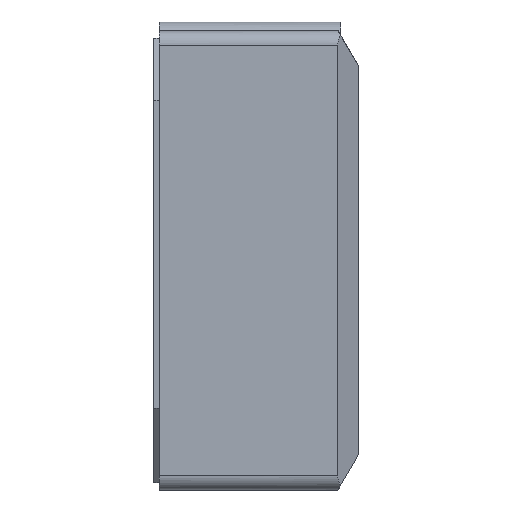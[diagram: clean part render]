
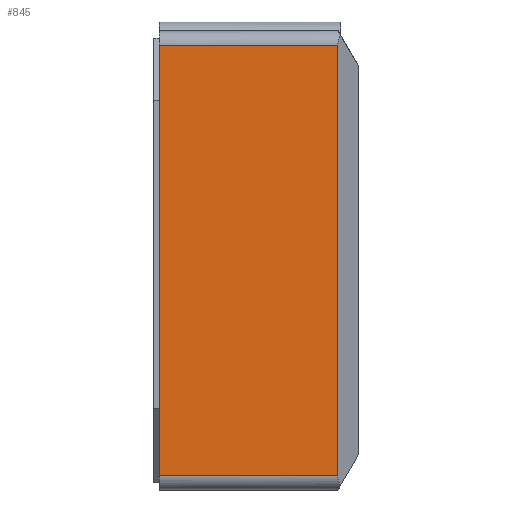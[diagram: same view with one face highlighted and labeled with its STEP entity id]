
A CAD part, left-side view. The second image highlights one B-rep face of the part: STEP entity #845.
In plain terms, the highlighted planar face has unit normal (-1, 0, 0).
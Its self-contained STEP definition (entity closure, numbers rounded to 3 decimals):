
#26 = VECTOR ( 'NONE', #330, 1000. ) ;
#46 = ORIENTED_EDGE ( 'NONE', *, *, #627, .T. ) ;
#87 = CARTESIAN_POINT ( 'NONE',  ( -75., 7., 73.5 ) ) ;
#92 = CARTESIAN_POINT ( 'NONE',  ( -75., 68., 73.5 ) ) ;
#330 = DIRECTION ( 'NONE',  ( 0., 0., -1. ) ) ;
#336 = LINE ( 'NONE', #390, #1894 ) ;
#384 = CARTESIAN_POINT ( 'NONE',  ( -75., 70., 73.5 ) ) ;
#390 = CARTESIAN_POINT ( 'NONE',  ( -75., 7., -78.5 ) ) ;
#493 = VECTOR ( 'NONE', #1406, 1000. ) ;
#519 = AXIS2_PLACEMENT_3D ( 'NONE', #384, #2224, #1287 ) ;
#557 = VERTEX_POINT ( 'NONE', #995 ) ;
#565 = DIRECTION ( 'NONE',  ( 0., 0., 1. ) ) ;
#620 = VERTEX_POINT ( 'NONE', #92 ) ;
#627 = EDGE_CURVE ( 'NONE', #2431, #557, #1014, .T. ) ;
#722 = LINE ( 'NONE', #795, #1926 ) ;
#780 = EDGE_CURVE ( 'NONE', #620, #2431, #2277, .T. ) ;
#789 = FACE_OUTER_BOUND ( 'NONE', #1149, .T. ) ;
#795 = CARTESIAN_POINT ( 'NONE',  ( -75., 70., 73.5 ) ) ;
#845 = ADVANCED_FACE ( 'NONE', ( #789 ), #915, .F. ) ;
#915 = PLANE ( 'NONE',  #519 ) ;
#937 = EDGE_CURVE ( 'NONE', #620, #1793, #722, .T. ) ;
#939 = ORIENTED_EDGE ( 'NONE', *, *, #780, .T. ) ;
#995 = CARTESIAN_POINT ( 'NONE',  ( -75., 7., -73.5 ) ) ;
#1014 = LINE ( 'NONE', #2149, #493 ) ;
#1149 = EDGE_LOOP ( 'NONE', ( #46, #1422, #1646, #939 ) ) ;
#1287 = DIRECTION ( 'NONE',  ( 0., 0., -1. ) ) ;
#1406 = DIRECTION ( 'NONE',  ( 0., -1., 0. ) ) ;
#1422 = ORIENTED_EDGE ( 'NONE', *, *, #1960, .T. ) ;
#1646 = ORIENTED_EDGE ( 'NONE', *, *, #937, .F. ) ;
#1690 = DIRECTION ( 'NONE',  ( 0., -1., 0. ) ) ;
#1793 = VERTEX_POINT ( 'NONE', #87 ) ;
#1894 = VECTOR ( 'NONE', #565, 1000. ) ;
#1926 = VECTOR ( 'NONE', #1690, 1000. ) ;
#1960 = EDGE_CURVE ( 'NONE', #557, #1793, #336, .T. ) ;
#2050 = CARTESIAN_POINT ( 'NONE',  ( -75., 68., -73.5 ) ) ;
#2149 = CARTESIAN_POINT ( 'NONE',  ( -75., 70., -73.5 ) ) ;
#2224 = DIRECTION ( 'NONE',  ( 1., 0., 0. ) ) ;
#2277 = LINE ( 'NONE', #2380, #26 ) ;
#2380 = CARTESIAN_POINT ( 'NONE',  ( -75., 68., 73.5 ) ) ;
#2431 = VERTEX_POINT ( 'NONE', #2050 ) ;
